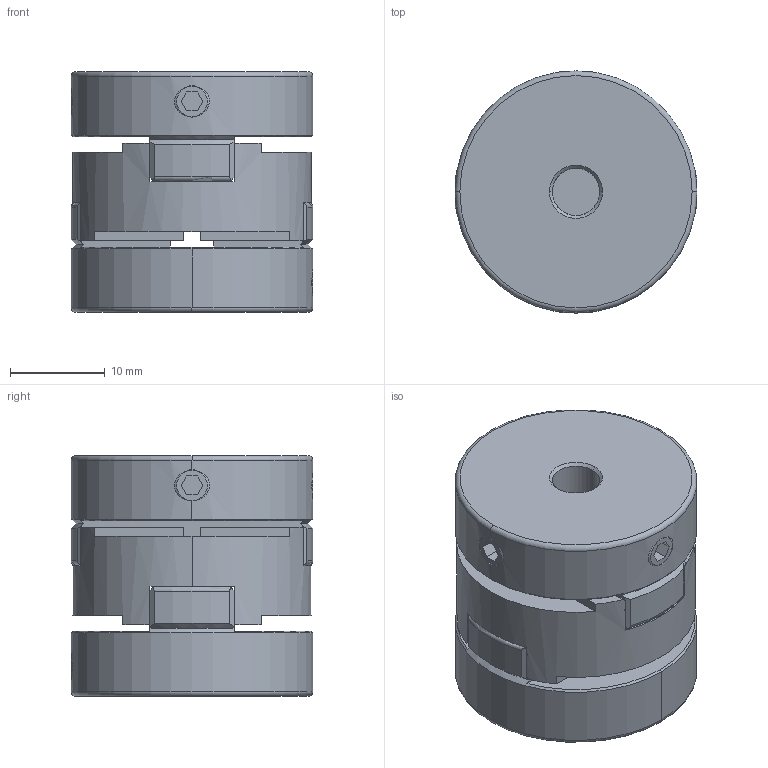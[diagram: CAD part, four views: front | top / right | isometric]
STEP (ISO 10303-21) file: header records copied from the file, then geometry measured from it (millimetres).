
FILE_DESCRIPTION (( 'STEP AP203' ), '1' );
FILE_NAME ('SOH-25-5X10_203.STEP', '2013-01-20T07:38:18', ( '' ), ( '' ), 'SwSTEP 2.0', 'SolidWorks 2012', '' );
FILE_SCHEMA (( 'CONFIG_CONTROL_DESIGN' ));
Length unit declared in the file: millimetre
Products named in the file (1): SOH-25-5X10_203
Bounding box: 25.5 x 25.5 x 25.4 mm (x, y, z)
Volume: 10428.4 mm3; surface area: 5402.2 mm2
Topology: 1 solids, 1 shells, 172 faces, 498 edges, 321 vertices
Faces by surface type: plane 89, cylinder 47, cone 20, sphere 8, torus 8
Entity records: 6220 total; most frequent: CARTESIAN_POINT 1644, ORIENTED_EDGE 996, DIRECTION 893, EDGE_CURVE 498, VERTEX_POINT 321, AXIS2_PLACEMENT_3D 314, LINE 265, VECTOR 265
